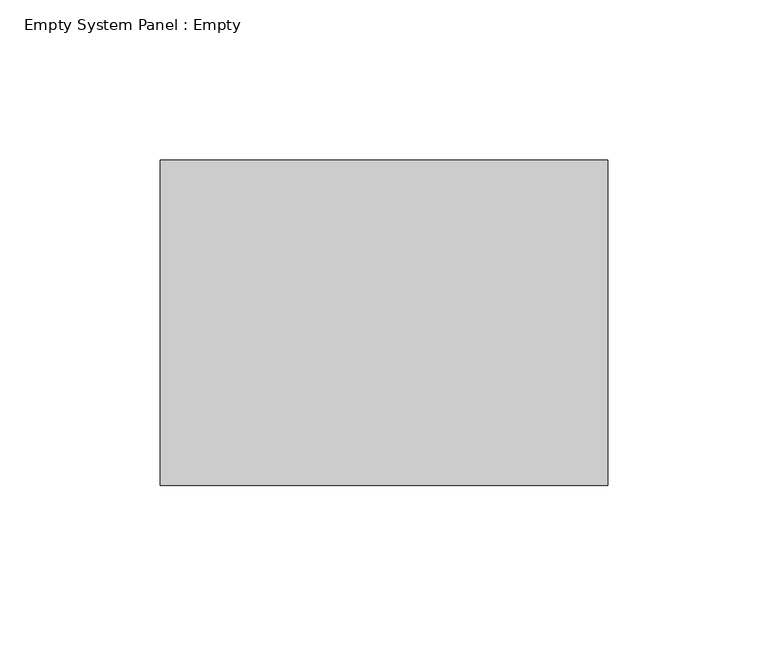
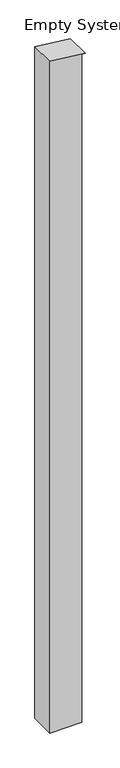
"""IFC4 building model written with IfcOpenShell, lengths in millimetres: plate geometry, Empty System Panel : Empty."""

from ifc_helpers import new_model, si_unit, frame, origin, place, context, project, spatial, polyline, outline, extrude, source, transform, mapped, element, save


def empty_system_panel_empty_ef31dbb7(model_context):
    return source(origin(), model_context, "Body", "SweptSolid", [
        extrude(outline(polyline([(0.0, -69.85), (0.0, 57.15), (2792.4936753, 57.15), (2792.4936753, 69.85), (2808.1188653, -69.85), (0.0, -69.85)])), frame((0.0, -50.8, 0.0), z_axis=(0.0, 1.0, 0.0), x_axis=(0.0, 0.0, 1.0)), (0.0, 0.0, 1.0), 101.6),
    ])


if __name__ == "__main__":
    model = new_model("IFC4")
    model_context = context("Model", 3, world=origin())
    ifc_project = project(units=[si_unit("LENGTHUNIT", "METRE", prefix="MILLI")], contexts=[model_context])
    site = spatial("IfcSite", under=ifc_project)
    building = spatial("IfcBuilding", under=site)
    placement = place(None, origin())
    empty_system_panel_empty_shape = empty_system_panel_empty_ef31dbb7(model_context)
    element("IfcPlate", 1, ObjectType="Empty System Panel : Empty", at=placement, inside=building, context=model_context, shape_type="MappedRepresentation", body=[
        mapped(empty_system_panel_empty_shape, transform((0.0, 0.0, 0.0), x_axis=(1.0, 0.0, 0.0), y_axis=(0.0, 1.0, 0.0), z_axis=(0.0, 0.0, 1.0))),
    ])
    save(model, "model.ifc")
